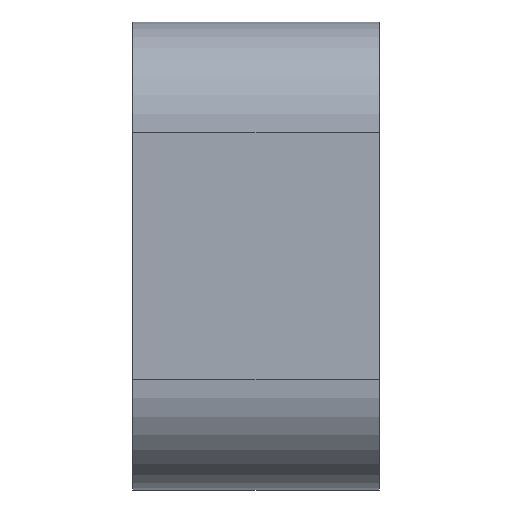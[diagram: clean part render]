
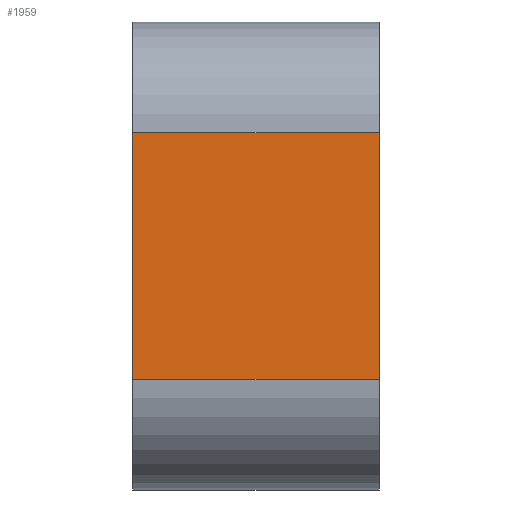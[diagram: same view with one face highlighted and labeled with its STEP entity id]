
A CAD part, left-side view. The second image highlights one B-rep face of the part: STEP entity #1959.
In plain terms, the highlighted planar face has unit normal (-1, 0, 0).
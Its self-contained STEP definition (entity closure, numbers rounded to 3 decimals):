
#99=LINE('',#3027,#238);
#134=LINE('',#3239,#273);
#175=LINE('',#3373,#314);
#181=LINE('',#3384,#320);
#238=VECTOR('',#2359,1000.);
#273=VECTOR('',#2540,1000.);
#314=VECTOR('',#2703,1000.);
#320=VECTOR('',#2719,1000.);
#693=ORIENTED_EDGE('',*,*,#1076,.F.);
#694=ORIENTED_EDGE('',*,*,#1147,.F.);
#695=ORIENTED_EDGE('',*,*,#970,.T.);
#696=ORIENTED_EDGE('',*,*,#1141,.T.);
#970=EDGE_CURVE('',#1256,#1254,#99,.T.);
#1076=EDGE_CURVE('',#1359,#1353,#134,.T.);
#1141=EDGE_CURVE('',#1254,#1353,#175,.T.);
#1147=EDGE_CURVE('',#1256,#1359,#181,.T.);
#1254=VERTEX_POINT('',#3025);
#1256=VERTEX_POINT('',#3028);
#1353=VERTEX_POINT('',#3227);
#1359=VERTEX_POINT('',#3238);
#1631=EDGE_LOOP('',(#693,#694,#695,#696));
#1782=FACE_BOUND('',#1631,.T.);
#1889=PLANE('',#2205);
#1959=ADVANCED_FACE('',(#1782),#1889,.T.);
#2205=AXIS2_PLACEMENT_3D('',#3385,#2720,#2721);
#2359=DIRECTION('',(0.,0.,-1.));
#2540=DIRECTION('',(0.,0.,-1.));
#2703=DIRECTION('',(0.,-1.,0.));
#2719=DIRECTION('',(0.,-1.,0.));
#2720=DIRECTION('',(-1.,0.,0.));
#2721=DIRECTION('',(0.,0.,1.));
#3025=CARTESIAN_POINT('',(-3.6,8.,28.745));
#3027=CARTESIAN_POINT('',(-3.6,8.,36.745));
#3028=CARTESIAN_POINT('',(-3.6,8.,36.745));
#3227=CARTESIAN_POINT('',(-3.6,0.,28.745));
#3238=CARTESIAN_POINT('',(-3.6,0.,36.745));
#3239=CARTESIAN_POINT('',(-3.6,0.,36.745));
#3373=CARTESIAN_POINT('',(-3.6,8.,28.745));
#3384=CARTESIAN_POINT('',(-3.6,8.,36.745));
#3385=CARTESIAN_POINT('',(-3.6,8.,36.745));
